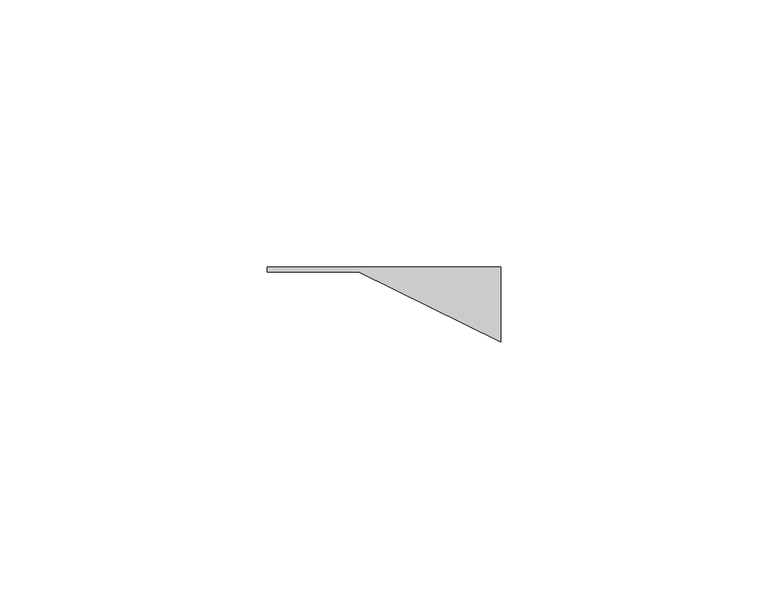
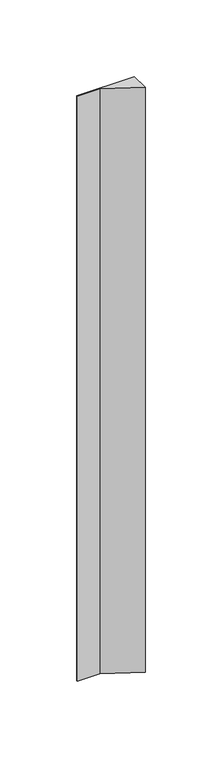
"""IFC4 building model written with IfcOpenShell, lengths in millimetres: plate geometry, ATELIERS 3S_GLACE PISSAILLAS 1000_VERTICAL : AZURO."""

import ifcopenshell
import ifcopenshell.guid

model = None  # the IFC model being written
_history = None  # IfcOwnerHistory: only IFC2X3 demands one
_inside = {}  # id of a spatial element -> (the spatial element, [elements in it])
_under = {}  # id of a project, library or spatial element -> (it, [spatial elements below it])
_declared = {}  # id of a project -> (the project, [libraries it declares])
_typed = {}  # id of a type object -> (the type object, [elements of that type])
_made_of = {}  # id of a material, layer set ... -> (it, [elements and type objects made of it])


def new_model(schema):
    """Start an empty IFC model of exactly this schema.

    Asked for "IFC4X3", IfcOpenShell would pick the latest addendum, in which some entities
    have other attributes; the version numbers below select the first issue.
    IFC2X3 requires an IfcOwnerHistory on every rooted entity: one is made here for all.
    """
    global model, _history
    if schema == "IFC4X3":
        model = ifcopenshell.file(schema_version=(4, 3, 0, 0))
    else:
        model = ifcopenshell.file(schema=schema)
    _inside.clear()
    _under.clear()
    _declared.clear()
    _typed.clear()
    _made_of.clear()
    _history = None
    if model.schema == "IFC2X3":
        org = make("IfcOrganization", Name="unknown")
        user = make(
            "IfcPersonAndOrganization",
            ThePerson=make("IfcPerson", FamilyName="unknown"),
            TheOrganization=org,
        )
        app = make(
            "IfcApplication",
            ApplicationDeveloper=org,
            Version="unknown",
            ApplicationFullName="unknown",
            ApplicationIdentifier="unknown",
        )
        _history = make(
            "IfcOwnerHistory",
            OwningUser=user,
            OwningApplication=app,
            ChangeAction="ADDED",
            CreationDate=0,
        )
    return model


def make(cls, **values):
    """One entity of the class cls with the attributes given. An attribute that is None is left unset."""
    return model.create_entity(
        cls, **{name: value for name, value in values.items() if value is not None}
    )


def rooted(cls, **values):
    """An entity with a GlobalId (a new one), such as an element, a storey or a relation."""
    return make(cls, GlobalId=ifcopenshell.guid.new(), OwnerHistory=_history, **values)


def si_unit(unit_type, name, prefix=None):
    """IfcSIUnit, for example si_unit("LENGTHUNIT", "METRE", prefix="MILLI")."""
    return make("IfcSIUnit", UnitType=unit_type, Prefix=prefix, Name=name)


def assignment(units):
    """IfcUnitAssignment: the units of a project."""
    return None if units is None else make("IfcUnitAssignment", Units=units)


def point(xyz):
    """IfcCartesianPoint."""
    return None if xyz is None else make("IfcCartesianPoint", Coordinates=xyz)


def direction(xyz):
    """IfcDirection."""
    return None if xyz is None else make("IfcDirection", DirectionRatios=xyz)


def frame(location, z_axis=None, x_axis=None):
    """IfcAxis2Placement3D, a coordinate frame: its origin and axes. An axis left out is left unset."""
    return make(
        "IfcAxis2Placement3D",
        Location=point(location),
        Axis=direction(z_axis),
        RefDirection=direction(x_axis),
    )


def origin():
    """The frame at (0, 0, 0) with its axes left unset."""
    return frame((0.0, 0.0, 0.0))


def origin_with_axes():
    """The frame at (0, 0, 0) with the z axis (0, 0, 1) and the x axis (1, 0, 0) written out."""
    return frame((0.0, 0.0, 0.0), z_axis=(0.0, 0.0, 1.0), x_axis=(1.0, 0.0, 0.0))


def place(relative_to, where):
    """IfcLocalPlacement: puts the frame where relative to a parent placement (None: the world)."""
    return make(
        "IfcLocalPlacement", PlacementRelTo=relative_to, RelativePlacement=where
    )


def context(
    kind, dimensions, precision=None, world=None, true_north=None, identifier=None
):
    """IfcGeometricRepresentationContext, for example the 3D "Model" context."""
    return make(
        "IfcGeometricRepresentationContext",
        ContextIdentifier=identifier,
        ContextType=kind,
        CoordinateSpaceDimension=dimensions,
        Precision=precision,
        WorldCoordinateSystem=world,
        TrueNorth=true_north,
    )


def project(units=None, contexts=None):
    """IfcProject with its units and contexts."""
    return rooted(
        "IfcProject",
        Name="project",
        RepresentationContexts=contexts,
        UnitsInContext=assignment(units),
    )


def spatial(cls, under=None, at=None, **own):
    """A site, building, storey or space (cls), placed at a placement, below another one or the project."""
    s = rooted(cls, ObjectPlacement=at, **own)
    if under is not None:
        _under.setdefault(under.id(), (under, []))[1].append(s)
    return s


def polyline(points):
    """IfcPolyline through the points."""
    return make("IfcPolyline", Points=[point(p) for p in points])


def outline(outer, holes=None, kind="AREA"):
    """IfcArbitraryClosedProfileDef: a profile drawn as a closed curve; with holes, ...WithVoids."""
    if holes is None:
        return make("IfcArbitraryClosedProfileDef", ProfileType=kind, OuterCurve=outer)
    return make(
        "IfcArbitraryProfileDefWithVoids",
        ProfileType=kind,
        OuterCurve=outer,
        InnerCurves=holes,
    )


def extrude(swept, where, along, depth):
    """IfcExtrudedAreaSolid: the profile swept, set in the frame where, extruded along a direction by depth."""
    return make(
        "IfcExtrudedAreaSolid",
        SweptArea=swept,
        Position=where,
        ExtrudedDirection=direction(along),
        Depth=depth,
    )


def shape(context_of_items, identifier, shape_type, items):
    """IfcShapeRepresentation: the items that make up one representation, for example the "Body"."""
    return make(
        "IfcShapeRepresentation",
        ContextOfItems=context_of_items,
        RepresentationIdentifier=identifier,
        RepresentationType=shape_type,
        Items=items,
    )


def source(mapping_origin, context_of_items, identifier, shape_type, items):
    """IfcRepresentationMap: a shape defined once, which mapped items show again and again."""
    return make(
        "IfcRepresentationMap",
        MappingOrigin=mapping_origin,
        MappedRepresentation=shape(context_of_items, identifier, shape_type, items),
    )


def transform(
    local_origin,
    x_axis=None,
    y_axis=None,
    z_axis=None,
    scale=None,
    scale2=None,
    scale3=None,
    uniform=True,
):
    """IfcCartesianTransformationOperator3D, or its non-uniform kind. x_axis, y_axis, z_axis: its Axis1, 2, 3."""
    if uniform:
        return make(
            "IfcCartesianTransformationOperator3D",
            Axis1=direction(x_axis),
            Axis2=direction(y_axis),
            LocalOrigin=point(local_origin),
            Scale=scale,
            Axis3=direction(z_axis),
        )
    return make(
        "IfcCartesianTransformationOperator3DnonUniform",
        Axis1=direction(x_axis),
        Axis2=direction(y_axis),
        LocalOrigin=point(local_origin),
        Scale=scale,
        Axis3=direction(z_axis),
        Scale2=scale2,
        Scale3=scale3,
    )


def mapped(mapping_source, mapping_target):
    """IfcMappedItem: shows the shape of a source again, moved by a transform."""
    return make(
        "IfcMappedItem", MappingSource=mapping_source, MappingTarget=mapping_target
    )


def made_of(thing, what):
    """Note that an element or type object is made of a material, layer set ...; save() writes the relation."""
    if what is not None:
        _made_of.setdefault(what.id(), (what, []))[1].append(thing)
    return thing


def element(
    cls,
    number,
    at=None,
    inside=None,
    cuts=None,
    type_object=None,
    material=None,
    context=None,
    identifier="Body",
    shape_type=None,
    held_by="IfcProductDefinitionShape",
    body=None,
    shapes=None,
    **own,
):
    """One element of the class cls, such as IfcWall. Its Tag is "e" and its number.

    at: its placement. inside: the storey or other place that contains it. cuts: it is an
    opening in that element (IfcRelVoidsElement). A single representation is given by context,
    identifier, shape_type and body (its items); several are given by shapes. held_by: the class
    of the entity that holds the representations. save() writes the other relations.
    """
    e = rooted(cls, Tag="e%d" % number, ObjectPlacement=at, **own)
    if body is not None:
        shapes = [shape(context, identifier, shape_type, body)]
    if shapes is not None:
        e.Representation = make(held_by, Representations=shapes)
    if inside is not None:
        _inside.setdefault(inside.id(), (inside, []))[1].append(e)
    if cuts is not None:
        rooted(
            "IfcRelVoidsElement", RelatingBuildingElement=cuts, RelatedOpeningElement=e
        )
    if type_object is not None:
        _typed.setdefault(type_object.id(), (type_object, []))[1].append(e)
    return made_of(e, material)


def aggregate(whole, parts):
    """IfcRelAggregates: a whole, such as a stair, and the parts it consists of."""
    return rooted("IfcRelAggregates", RelatingObject=whole, RelatedObjects=parts)


def save(model, path):
    """Write the relations noted so far, then the file.

    IfcRelAggregates (storeys below a building ...), IfcRelContainedInSpatialStructure (elements
    in a storey), IfcRelDefinesByType, IfcRelAssociatesMaterial and IfcRelDeclares: one each for
    every whole, place, type object, material and project.
    """
    for whole, parts in _under.values():
        aggregate(whole, parts)
    for where, things in _inside.values():
        rooted(
            "IfcRelContainedInSpatialStructure",
            RelatedElements=things,
            RelatingStructure=where,
        )
    for kind, things in _typed.values():
        rooted("IfcRelDefinesByType", RelatedObjects=things, RelatingType=kind)
    for what, things in _made_of.values():
        rooted("IfcRelAssociatesMaterial", RelatedObjects=things, RelatingMaterial=what)
    for by, libraries in _declared.values():
        rooted("IfcRelDeclares", RelatingContext=by, RelatedDefinitions=libraries)
    model.write(path)


def plate_cf28dab4(model_context):
    return source(origin(), model_context, "Body", "SweptSolid", [
        extrude(outline(polyline([(-21.7987415, 0.0), (21.7987415, 0.0), (21.7987415, -14.0071277), (-4.7515298, -0.864757), (-21.7987415, -0.864757), (-21.7987415, 0.0)])), origin_with_axes(), (0.0, 0.0, 1.0), 466.5380782),
    ])


if __name__ == "__main__":
    model = new_model("IFC4")
    model_context = context("Model", 3, world=origin())
    ifc_project = project(units=[si_unit("LENGTHUNIT", "METRE", prefix="MILLI")], contexts=[model_context])
    site = spatial("IfcSite", under=ifc_project)
    building = spatial("IfcBuilding", under=site)
    placement = place(None, origin())
    plate_shape = plate_cf28dab4(model_context)
    element("IfcPlate", 1, ObjectType="ATELIERS 3S_GLACE PISSAILLAS 1000_VERTICAL : AZURO", at=placement, inside=building, context=model_context, shape_type="MappedRepresentation", body=[
        mapped(plate_shape, transform((0.0, 0.0, 0.0), x_axis=(1.0, 0.0, 0.0), y_axis=(0.0, 1.0, 0.0), z_axis=(0.0, 0.0, 1.0))),
    ])
    save(model, "model.ifc")
